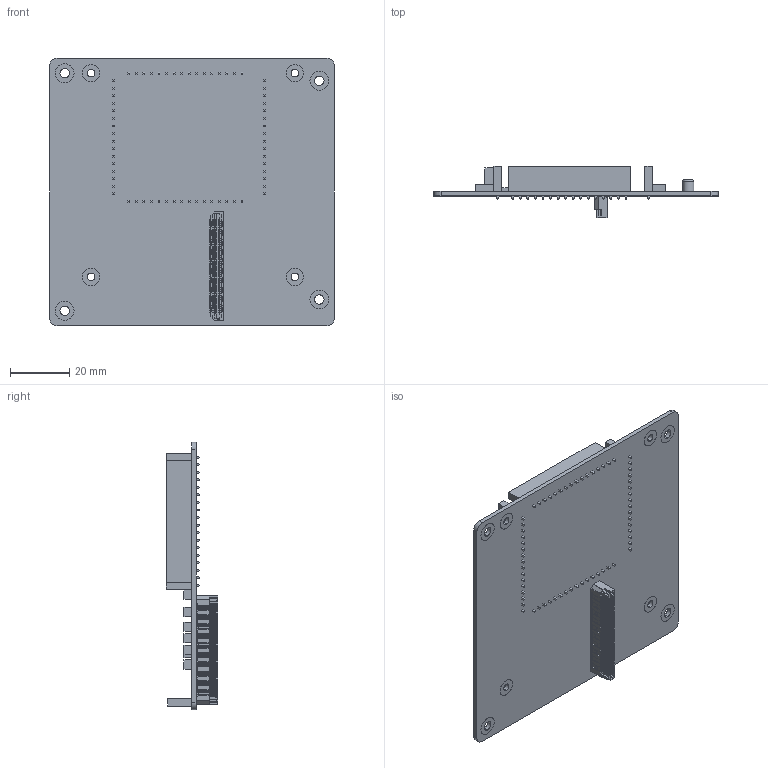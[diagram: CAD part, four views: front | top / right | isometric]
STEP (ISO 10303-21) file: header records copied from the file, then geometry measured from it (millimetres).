
FILE_DESCRIPTION (( 'STEP AP214' ), '1' );
FILE_NAME ('710-00509-A MSP-TS430PM64 Adapter.STEP', '2017-11-14T01:22:49', ( '' ), ( '' ), 'SwSTEP 2.0', 'SolidWorks 2014', '' );
FILE_SCHEMA (( 'AUTOMOTIVE_DESIGN' ));
Length unit declared in the file: inch
Products named in the file (2): 710-00509-A MSP-TS430PM64 Adapter
Bounding box: 95.89 x 17.33 x 90.17 mm (x, y, z)
Volume: 18115.5 mm3; surface area: 26326.7 mm2
Topology: 1 solids, 31 shells, 8611 faces, 26290 edges, 17063 vertices
Faces by surface type: plane 6415, cylinder 2183, sphere 10, torus 3
Entity records: 293827 total; most frequent: CARTESIAN_POINT 52856, ORIENTED_EDGE 52560, DIRECTION 47576, EDGE_CURVE 26280, LINE 21610, VECTOR 21610, VERTEX_POINT 17063, AXIS2_PLACEMENT_3D 12983
